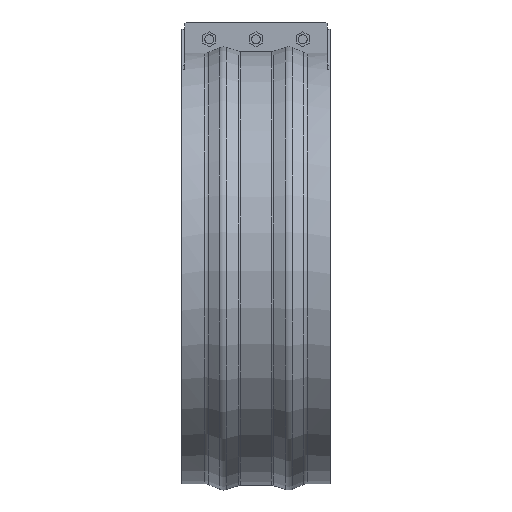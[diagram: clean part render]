
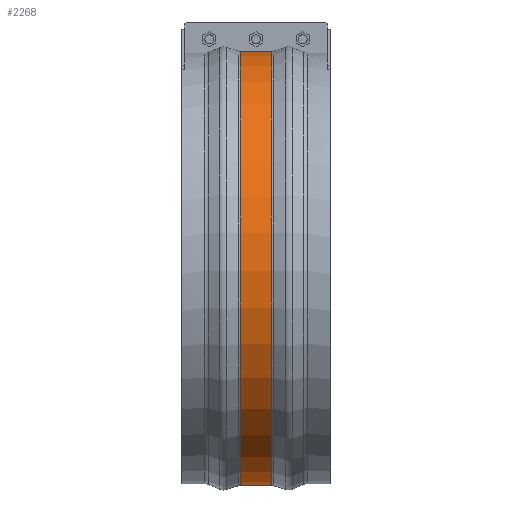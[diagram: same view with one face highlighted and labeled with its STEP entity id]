
A CAD part, front view. The second image highlights one B-rep face of the part: STEP entity #2268.
In plain terms, the highlighted cylindrical face has radius 465.44 mm (diameter 930.879 mm), a partial arc.
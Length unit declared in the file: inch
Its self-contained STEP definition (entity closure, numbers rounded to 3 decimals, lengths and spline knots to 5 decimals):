
#266=FACE_OUTER_BOUND('',#395,.T.);
#395=EDGE_LOOP('',(#1872,#1873,#1874,#1875));
#597=LINE('',#3675,#788);
#602=LINE('',#3760,#793);
#788=VECTOR('',#2968,0.3937);
#793=VECTOR('',#2977,0.3937);
#848=CIRCLE('',#2449,18.32439);
#849=CIRCLE('',#2451,18.32439);
#1054=VERTEX_POINT('',#3667);
#1055=VERTEX_POINT('',#3674);
#1066=VERTEX_POINT('',#3752);
#1067=VERTEX_POINT('',#3759);
#1333=EDGE_CURVE('',#1055,#1054,#597,.T.);
#1348=EDGE_CURVE('',#1067,#1066,#602,.T.);
#1360=EDGE_CURVE('',#1055,#1066,#848,.T.);
#1361=EDGE_CURVE('',#1054,#1067,#849,.T.);
#1872=ORIENTED_EDGE('',*,*,#1333,.T.);
#1873=ORIENTED_EDGE('',*,*,#1361,.T.);
#1874=ORIENTED_EDGE('',*,*,#1348,.T.);
#1875=ORIENTED_EDGE('',*,*,#1360,.F.);
#2053=CYLINDRICAL_SURFACE('',#2450,18.32439);
#2268=ADVANCED_FACE('',(#266),#2053,.T.);
#2449=AXIS2_PLACEMENT_3D('',#3810,#2999,#3000);
#2450=AXIS2_PLACEMENT_3D('',#3811,#3001,#3002);
#2451=AXIS2_PLACEMENT_3D('',#3812,#3003,#3004);
#2968=DIRECTION('',(-1.,0.,0.));
#2977=DIRECTION('',(1.,0.,0.));
#2999=DIRECTION('center_axis',(1.,0.,0.));
#3000=DIRECTION('ref_axis',(0.,0.,-1.));
#3001=DIRECTION('center_axis',(1.,0.,0.));
#3002=DIRECTION('ref_axis',(0.,0.,
-1.));
#3003=DIRECTION('center_axis',(1.,0.,0.));
#3004=DIRECTION('ref_axis',(0.,0.,-1.));
#3667=CARTESIAN_POINT('',(-1.31451,-0.375,18.32055));
#3674=CARTESIAN_POINT('',(1.31451,-0.375,18.32055));
#3675=CARTESIAN_POINT('',(0.,-0.375,18.32055));
#3752=CARTESIAN_POINT('',(1.31451,0.375,18.32055));
#3759=CARTESIAN_POINT('',(-1.31451,0.375,18.32055));
#3760=CARTESIAN_POINT('',(0.,0.375,18.32055));
#3810=CARTESIAN_POINT('Origin',(1.31451,0.,0.));
#3811=CARTESIAN_POINT('Origin',(0.,0.,0.));
#3812=CARTESIAN_POINT('Origin',(-1.31451,0.,
0.));
